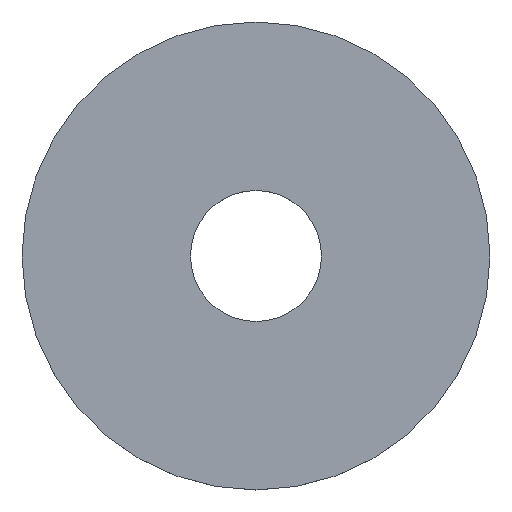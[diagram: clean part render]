
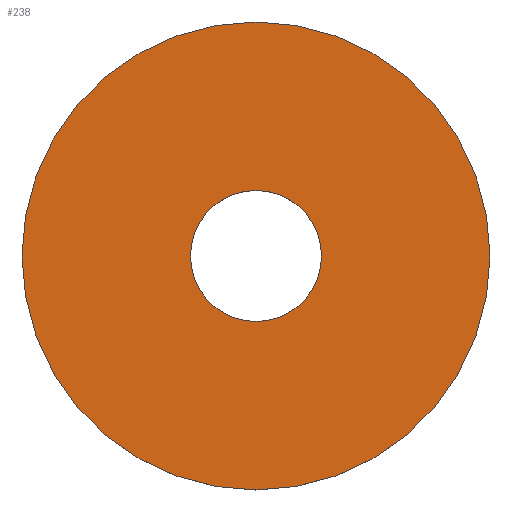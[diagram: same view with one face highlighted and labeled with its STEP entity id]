
A CAD part, top view. The second image highlights one B-rep face of the part: STEP entity #238.
In plain terms, the highlighted planar face has unit normal (0, 0, 1).
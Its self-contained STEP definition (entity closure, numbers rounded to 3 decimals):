
#2 = EDGE_CURVE ( 'NONE', #146, #70, #211, .T. ) ;
#9 = CARTESIAN_POINT ( 'NONE',  ( -4.2, 0., 0.75 ) ) ;
#12 = CARTESIAN_POINT ( 'NONE',  ( 4.2, 0., 0.75 ) ) ;
#14 = DIRECTION ( 'NONE',  ( 1., 0., 0. ) ) ;
#17 = DIRECTION ( 'NONE',  ( 0., 0., 1. ) ) ;
#20 = AXIS2_PLACEMENT_3D ( 'NONE', #86, #165, #236 ) ;
#22 = EDGE_CURVE ( 'NONE', #66, #100, #156, .T. ) ;
#37 = CARTESIAN_POINT ( 'NONE',  ( 0., 0., 0.75 ) ) ;
#40 = CIRCLE ( 'NONE', #122, 15. ) ;
#44 = CIRCLE ( 'NONE', #200, 4.2 ) ;
#50 = DIRECTION ( 'NONE',  ( 0., 0., 1. ) ) ;
#52 = CARTESIAN_POINT ( 'NONE',  ( 0., 0., 0.75 ) ) ;
#66 = VERTEX_POINT ( 'NONE', #125 ) ;
#67 = AXIS2_PLACEMENT_3D ( 'NONE', #235, #50, #85 ) ;
#68 = DIRECTION ( 'NONE',  ( 1., 0., 0. ) ) ;
#70 = VERTEX_POINT ( 'NONE', #9 ) ;
#80 = CARTESIAN_POINT ( 'NONE',  ( 0., 0., 0.75 ) ) ;
#85 = DIRECTION ( 'NONE',  ( 1., 0., 0. ) ) ;
#86 = CARTESIAN_POINT ( 'NONE',  ( 0., 0., 0.75 ) ) ;
#88 = ORIENTED_EDGE ( 'NONE', *, *, #22, .T. ) ;
#100 = VERTEX_POINT ( 'NONE', #142 ) ;
#115 = EDGE_CURVE ( 'NONE', #100, #66, #40, .T. ) ;
#122 = AXIS2_PLACEMENT_3D ( 'NONE', #80, #167, #241 ) ;
#125 = CARTESIAN_POINT ( 'NONE',  ( -15., 0., 0.75 ) ) ;
#138 = ORIENTED_EDGE ( 'NONE', *, *, #115, .T. ) ;
#142 = CARTESIAN_POINT ( 'NONE',  ( 15., 0., 0.75 ) ) ;
#146 = VERTEX_POINT ( 'NONE', #12 ) ;
#156 = CIRCLE ( 'NONE', #20, 15. ) ;
#165 = DIRECTION ( 'NONE',  ( 0., 0., 1. ) ) ;
#167 = DIRECTION ( 'NONE',  ( 0., 0., 1. ) ) ;
#175 = EDGE_LOOP ( 'NONE', ( #227, #178 ) ) ;
#178 = ORIENTED_EDGE ( 'NONE', *, *, #2, .F. ) ;
#182 = AXIS2_PLACEMENT_3D ( 'NONE', #52, #17, #68 ) ;
#192 = DIRECTION ( 'NONE',  ( 0., 0., 1. ) ) ;
#194 = EDGE_LOOP ( 'NONE', ( #88, #138 ) ) ;
#196 = EDGE_CURVE ( 'NONE', #70, #146, #44, .T. ) ;
#200 = AXIS2_PLACEMENT_3D ( 'NONE', #37, #192, #14 ) ;
#205 = FACE_OUTER_BOUND ( 'NONE', #194, .T. ) ;
#210 = PLANE ( 'NONE',  #182 ) ;
#211 = CIRCLE ( 'NONE', #67, 4.2 ) ;
#227 = ORIENTED_EDGE ( 'NONE', *, *, #196, .F. ) ;
#229 = FACE_BOUND ( 'NONE', #175, .T. ) ;
#235 = CARTESIAN_POINT ( 'NONE',  ( 0., 0., 0.75 ) ) ;
#236 = DIRECTION ( 'NONE',  ( 1., 0., 0. ) ) ;
#238 = ADVANCED_FACE ( 'NONE', ( #205, #229 ), #210, .T. ) ;
#241 = DIRECTION ( 'NONE',  ( 1., 0., 0. ) ) ;
